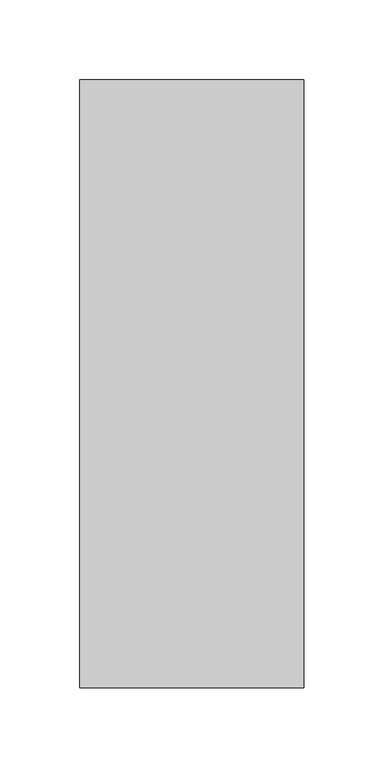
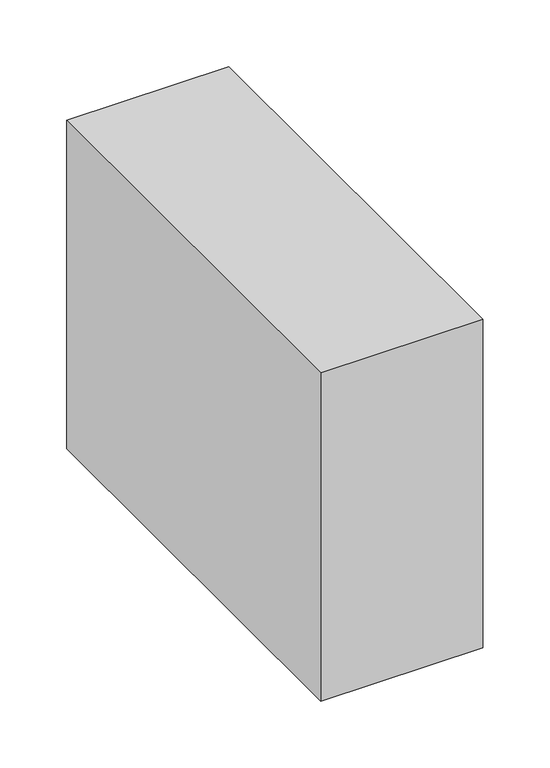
"""IFC4 building model written with IfcOpenShell, lengths in millimetres: proxy geometry."""

from ifc_helpers import new_model, si_unit, frame, origin, place, context, project, spatial, polyline, outline, extrude, source, transform, mapped, element, save


def structural_framing_762ff612(model_context):
    return source(origin(), model_context, "Body", "SweptSolid", [
        extrude(outline(polyline([(-70.0, 190.0), (70.0, 190.0), (70.0, -190.0), (-70.0, -190.0), (-70.0, 190.0)])), frame((0.0, 0.0, -300.0), z_axis=(0.0, 0.0, 1.0), x_axis=(1.0, 0.0, 0.0)), (0.0, 0.0, 1.0), 300.0),
    ])


if __name__ == "__main__":
    model = new_model("IFC4")
    model_context = context("Model", 3, world=origin())
    ifc_project = project(units=[si_unit("LENGTHUNIT", "METRE", prefix="MILLI")], contexts=[model_context])
    site = spatial("IfcSite", under=ifc_project)
    building = spatial("IfcBuilding", under=site)
    placement = place(None, origin())
    structural_framing_shape = structural_framing_762ff612(model_context)
    element("IfcBuildingElementProxy", 1, Name="Structural Framing", at=placement, inside=building, context=model_context, shape_type="MappedRepresentation", body=[
        mapped(structural_framing_shape, transform((0.0, 0.0, 0.0), x_axis=(1.0, 0.0, 0.0), y_axis=(0.0, 1.0, 0.0), z_axis=(0.0, 0.0, 1.0))),
    ])
    save(model, "model.ifc")
